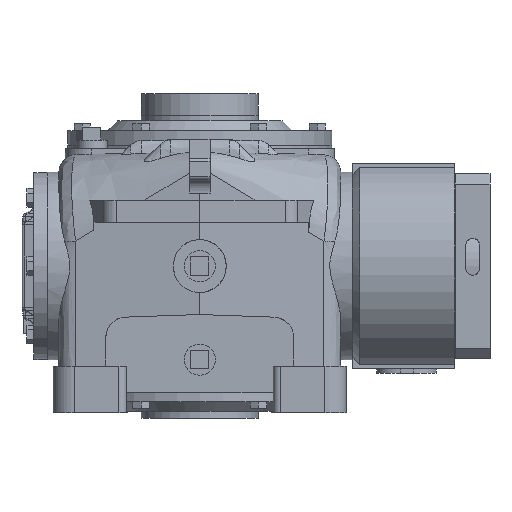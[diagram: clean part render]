
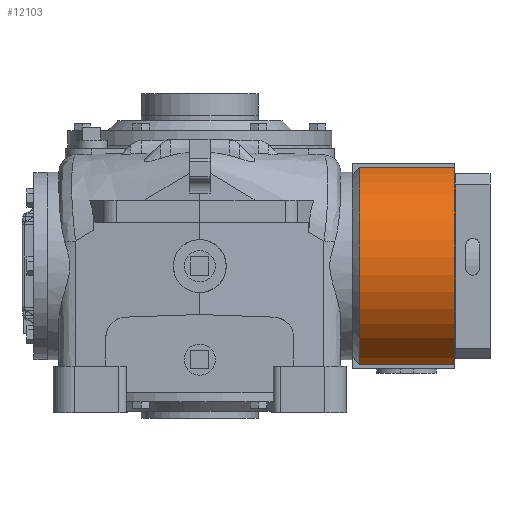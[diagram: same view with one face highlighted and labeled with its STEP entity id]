
A CAD part, front view. The second image highlights one B-rep face of the part: STEP entity #12103.
In plain terms, the highlighted cylindrical face has radius 88.9 mm (diameter 177.8 mm), a partial arc.
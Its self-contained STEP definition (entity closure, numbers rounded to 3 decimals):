
#1444=LINE('',#26285,#2454);
#1445=LINE('',#26290,#2455);
#2454=VECTOR('',#17096,1000.);
#2455=VECTOR('',#17099,1000.);
#2737=CYLINDRICAL_SURFACE('',#14562,88.9);
#5594=ORIENTED_EDGE('',*,*,#7614,.F.);
#5595=ORIENTED_EDGE('',*,*,#7615,.F.);
#5596=ORIENTED_EDGE('',*,*,#7616,.T.);
#5597=ORIENTED_EDGE('',*,*,#7617,.T.);
#7614=EDGE_CURVE('',#8864,#8865,#1444,.F.);
#7615=EDGE_CURVE('',#8866,#8864,#9258,.T.);
#7616=EDGE_CURVE('',#8866,#8867,#1445,.F.);
#7617=EDGE_CURVE('',#8867,#8865,#9259,.T.);
#8864=VERTEX_POINT('',#26286);
#8865=VERTEX_POINT('',#26287);
#8866=VERTEX_POINT('',#26289);
#8867=VERTEX_POINT('',#26291);
#9258=CIRCLE('',#14563,88.9);
#9259=CIRCLE('',#14564,88.9);
#10021=EDGE_LOOP('',(#5594,#5595,#5596,#5597));
#10900=FACE_BOUND('',#10021,.T.);
#12103=ADVANCED_FACE('',(#10900),#2737,.T.);
#14562=AXIS2_PLACEMENT_3D('',#26284,#17094,#17095);
#14563=AXIS2_PLACEMENT_3D('',#26288,#17097,#17098);
#14564=AXIS2_PLACEMENT_3D('',#26292,#17100,#17101);
#17094=DIRECTION('',(-1.,0.,0.));
#17095=DIRECTION('',(0.,0.,1.));
#17096=DIRECTION('',(-1.,0.,0.));
#17097=DIRECTION('',(-1.,0.,0.));
#17098=DIRECTION('',(0.,0.,1.));
#17099=DIRECTION('',(-1.,0.,0.));
#17100=DIRECTION('',(-1.,0.,0.));
#17101=DIRECTION('',(0.,0.,1.));
#26284=CARTESIAN_POINT('',(-60.008,0.,0.));
#26285=CARTESIAN_POINT('',(-60.008,-24.606,85.427));
#26286=CARTESIAN_POINT('',(6.765,-24.606,85.427));
#26287=CARTESIAN_POINT('',(89.01,-24.606,85.427));
#26288=CARTESIAN_POINT('',(6.765,0.,0.));
#26289=CARTESIAN_POINT('',(6.765,-24.606,-85.427));
#26290=CARTESIAN_POINT('',(-60.008,-24.606,-85.427));
#26291=CARTESIAN_POINT('',(89.01,-24.606,-85.427));
#26292=CARTESIAN_POINT('',(89.01,0.,0.));
